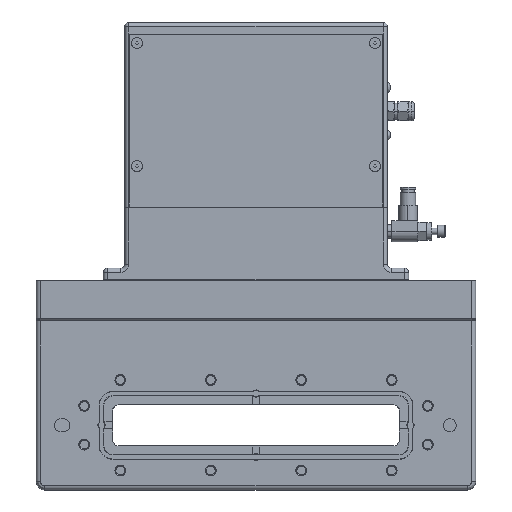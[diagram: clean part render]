
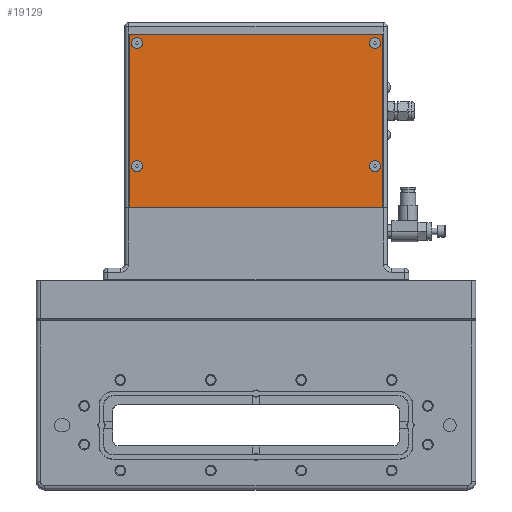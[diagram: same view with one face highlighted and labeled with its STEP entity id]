
A CAD part, top view. The second image highlights one B-rep face of the part: STEP entity #19129.
In plain terms, the highlighted planar face has unit normal (0, 0, 1).
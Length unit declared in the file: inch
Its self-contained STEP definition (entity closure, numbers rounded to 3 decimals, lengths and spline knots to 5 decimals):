
#4550=DIRECTION('',(1.,0.,0.));
#4551=VECTOR('',#4550,7.74);
#4552=CARTESIAN_POINT('',(-3.87,11.917,1.1415));
#4553=LINE('',#4552,#4551);
#4554=DIRECTION('',(0.,-1.,0.));
#4555=VECTOR('',#4554,5.265);
#4556=CARTESIAN_POINT('',(3.87,11.917,1.1415));
#4557=LINE('',#4556,#4555);
#4558=DIRECTION('',(-1.,0.,0.));
#4559=VECTOR('',#4558,7.74);
#4560=CARTESIAN_POINT('',(3.87,6.652,1.1415));
#4561=LINE('',#4560,#4559);
#4562=DIRECTION('',(0.,1.,0.));
#4563=VECTOR('',#4562,5.265);
#4564=CARTESIAN_POINT('',(-3.87,6.652,1.1415));
#4565=LINE('',#4564,#4563);
#4582=CARTESIAN_POINT('',(3.625,11.647,1.1415));
#4583=DIRECTION('',(0.,0.,-1.));
#4584=DIRECTION('',(0.,1.,0.));
#4585=AXIS2_PLACEMENT_3D('',#4582,#4583,#4584);
#4587=CARTESIAN_POINT('',(3.625,11.647,1.1415));
#4588=DIRECTION('',(0.,0.,-1.));
#4589=DIRECTION('',(0.,-1.,0.));
#4590=AXIS2_PLACEMENT_3D('',#4587,#4588,#4589);
#4592=CARTESIAN_POINT('',(-3.625,11.647,1.1415));
#4593=DIRECTION('',(0.,0.,-1.));
#4594=DIRECTION('',(0.,1.,0.));
#4595=AXIS2_PLACEMENT_3D('',#4592,#4593,#4594);
#4597=CARTESIAN_POINT('',(-3.625,11.647,1.1415));
#4598=DIRECTION('',(0.,0.,-1.));
#4599=DIRECTION('',(0.,-1.,0.));
#4600=AXIS2_PLACEMENT_3D('',#4597,#4598,#4599);
#4602=CARTESIAN_POINT('',(3.625,7.897,1.1415));
#4603=DIRECTION('',(0.,0.,-1.));
#4604=DIRECTION('',(0.,1.,0.));
#4605=AXIS2_PLACEMENT_3D('',#4602,#4603,#4604);
#4607=CARTESIAN_POINT('',(3.625,7.897,1.1415));
#4608=DIRECTION('',(0.,0.,-1.));
#4609=DIRECTION('',(0.,-1.,0.));
#4610=AXIS2_PLACEMENT_3D('',#4607,#4608,#4609);
#4612=CARTESIAN_POINT('',(-3.625,7.897,1.1415));
#4613=DIRECTION('',(0.,0.,-1.));
#4614=DIRECTION('',(0.,1.,0.));
#4615=AXIS2_PLACEMENT_3D('',#4612,#4613,#4614);
#4617=CARTESIAN_POINT('',(-3.625,7.897,1.1415));
#4618=DIRECTION('',(0.,0.,-1.));
#4619=DIRECTION('',(0.,-1.,0.));
#4620=AXIS2_PLACEMENT_3D('',#4617,#4618,#4619);
#12506=CARTESIAN_POINT('',(-3.87,11.917,1.1415));
#12507=CARTESIAN_POINT('',(3.87,11.917,1.1415));
#12508=VERTEX_POINT('',#12506);
#12509=VERTEX_POINT('',#12507);
#12510=CARTESIAN_POINT('',(3.87,6.652,1.1415));
#12511=VERTEX_POINT('',#12510);
#12512=CARTESIAN_POINT('',(-3.87,6.652,1.1415));
#12513=VERTEX_POINT('',#12512);
#12602=CARTESIAN_POINT('',(3.625,11.819,1.1415));
#12603=CARTESIAN_POINT('',(3.625,11.475,1.1415));
#12604=VERTEX_POINT('',#12602);
#12605=VERTEX_POINT('',#12603);
#12682=CARTESIAN_POINT('',(-3.625,11.819,1.1415));
#12683=VERTEX_POINT('',#12682);
#12684=CARTESIAN_POINT('',(-3.625,11.475,1.1415));
#12685=VERTEX_POINT('',#12684);
#12762=CARTESIAN_POINT('',(3.625,8.069,1.1415));
#12763=VERTEX_POINT('',#12762);
#12764=CARTESIAN_POINT('',(3.625,7.725,1.1415));
#12765=VERTEX_POINT('',#12764);
#12842=CARTESIAN_POINT('',(-3.625,8.069,1.1415));
#12843=VERTEX_POINT('',#12842);
#12844=CARTESIAN_POINT('',(-3.625,7.725,1.1415));
#12845=VERTEX_POINT('',#12844);
#19090=CARTESIAN_POINT('',(0.,0.,1.1415));
#19091=DIRECTION('',(0.,0.,1.));
#19092=DIRECTION('',(1.,0.,0.));
#19093=AXIS2_PLACEMENT_3D('',#19090,#19091,#19092);
#19094=PLANE('',#19093);
#19096=ORIENTED_EDGE('',*,*,#19095,.T.);
#19098=ORIENTED_EDGE('',*,*,#19097,.T.);
#19100=ORIENTED_EDGE('',*,*,#19099,.T.);
#19102=ORIENTED_EDGE('',*,*,#19101,.T.);
#19103=EDGE_LOOP('',(#19096,#19098,#19100,#19102));
#19104=FACE_OUTER_BOUND('',#19103,.F.);
#19106=ORIENTED_EDGE('',*,*,#19105,.F.);
#19108=ORIENTED_EDGE('',*,*,#19107,.F.);
#19109=EDGE_LOOP('',(#19106,#19108));
#19110=FACE_BOUND('',#19109,.F.);
#19112=ORIENTED_EDGE('',*,*,#19111,.F.);
#19114=ORIENTED_EDGE('',*,*,#19113,.F.);
#19115=EDGE_LOOP('',(#19112,#19114));
#19116=FACE_BOUND('',#19115,.F.);
#19118=ORIENTED_EDGE('',*,*,#19117,.F.);
#19120=ORIENTED_EDGE('',*,*,#19119,.F.);
#19121=EDGE_LOOP('',(#19118,#19120));
#19122=FACE_BOUND('',#19121,.F.);
#19124=ORIENTED_EDGE('',*,*,#19123,.F.);
#19126=ORIENTED_EDGE('',*,*,#19125,.F.);
#19127=EDGE_LOOP('',(#19124,#19126));
#19128=FACE_BOUND('',#19127,.F.);
#4586=CIRCLE('',#4585,0.172);
#4591=CIRCLE('',#4590,0.172);
#4596=CIRCLE('',#4595,0.172);
#4601=CIRCLE('',#4600,0.172);
#4606=CIRCLE('',#4605,0.172);
#4611=CIRCLE('',#4610,0.172);
#4616=CIRCLE('',#4615,0.172);
#4621=CIRCLE('',#4620,0.172);
#19095=EDGE_CURVE('',#12508,#12509,#4553,.T.);
#19097=EDGE_CURVE('',#12509,#12511,#4557,.T.);
#19099=EDGE_CURVE('',#12511,#12513,#4561,.T.);
#19101=EDGE_CURVE('',#12513,#12508,#4565,.T.);
#19105=EDGE_CURVE('',#12604,#12605,#4586,.T.);
#19107=EDGE_CURVE('',#12605,#12604,#4591,.T.);
#19111=EDGE_CURVE('',#12683,#12685,#4596,.T.);
#19113=EDGE_CURVE('',#12685,#12683,#4601,.T.);
#19117=EDGE_CURVE('',#12763,#12765,#4606,.T.);
#19119=EDGE_CURVE('',#12765,#12763,#4611,.T.);
#19123=EDGE_CURVE('',#12843,#12845,#4616,.T.);
#19125=EDGE_CURVE('',#12845,#12843,#4621,.T.);
#19129=ADVANCED_FACE('',(#19104,#19110,#19116,#19122,#19128),#19094,.T.);
